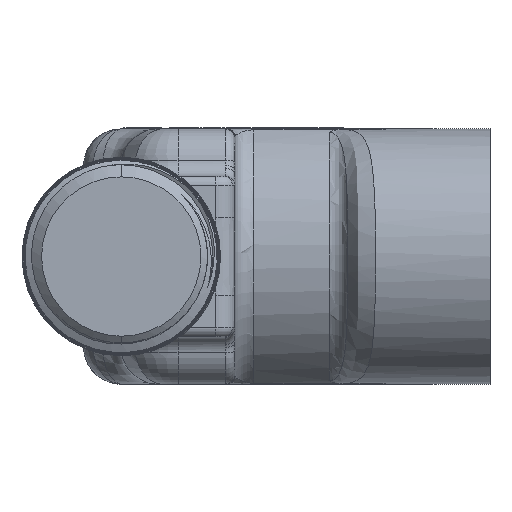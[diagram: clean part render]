
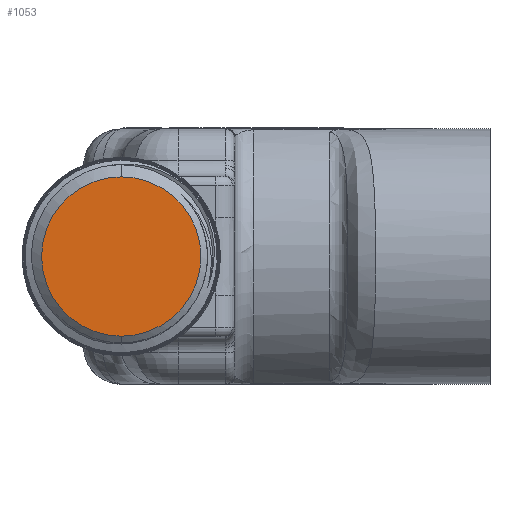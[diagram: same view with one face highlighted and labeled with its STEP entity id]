
A CAD part, front view. The second image highlights one B-rep face of the part: STEP entity #1053.
In plain terms, the highlighted planar face has unit normal (0, -1, 0).
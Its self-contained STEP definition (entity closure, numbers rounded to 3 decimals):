
#1053 = ADVANCED_FACE ( 'NONE', ( #21843 ), #6840, .T. ) ;
#1626 = CARTESIAN_POINT ( 'NONE',  ( -23.521, -28., -13.979 ) ) ;
#2285 = VERTEX_POINT ( 'NONE', #17493 ) ;
#2633 = AXIS2_PLACEMENT_3D ( 'NONE', #6468, #19024, #20726 ) ;
#3479 = DIRECTION ( 'NONE',  ( 0., 0., -1. ) ) ;
#3973 = EDGE_CURVE ( 'NONE', #10587, #2285, #17837, .T. ) ;
#5389 = CARTESIAN_POINT ( 'NONE',  ( -12., -28., 0. ) ) ;
#6468 = CARTESIAN_POINT ( 'NONE',  ( -12., -28., 0. ) ) ;
#6840 = PLANE ( 'NONE',  #8295 ) ;
#8295 = AXIS2_PLACEMENT_3D ( 'NONE', #1626, #14187, #3479 ) ;
#10587 = VERTEX_POINT ( 'NONE', #14577 ) ;
#12187 = EDGE_LOOP ( 'NONE', ( #19039, #16445 ) ) ;
#14187 = DIRECTION ( 'NONE',  ( 0., -1., 0. ) ) ;
#14398 = EDGE_CURVE ( 'NONE', #2285, #10587, #20365, .T. ) ;
#14459 = DIRECTION ( 'NONE',  ( 0., 0., -1. ) ) ;
#14577 = CARTESIAN_POINT ( 'NONE',  ( -12., -28., 8.427 ) ) ;
#16445 = ORIENTED_EDGE ( 'NONE', *, *, #14398, .F. ) ;
#17493 = CARTESIAN_POINT ( 'NONE',  ( -12., -28., -8.427 ) ) ;
#17692 = AXIS2_PLACEMENT_3D ( 'NONE', #5389, #17866, #14459 ) ;
#17837 = CIRCLE ( 'NONE', #2633, 8.427 ) ;
#17866 = DIRECTION ( 'NONE',  ( 0., 1., 0. ) ) ;
#19024 = DIRECTION ( 'NONE',  ( 0., 1., 0. ) ) ;
#19039 = ORIENTED_EDGE ( 'NONE', *, *, #3973, .F. ) ;
#20365 = CIRCLE ( 'NONE', #17692, 8.427 ) ;
#20726 = DIRECTION ( 'NONE',  ( 0., 0., -1. ) ) ;
#21843 = FACE_OUTER_BOUND ( 'NONE', #12187, .T. ) ;
